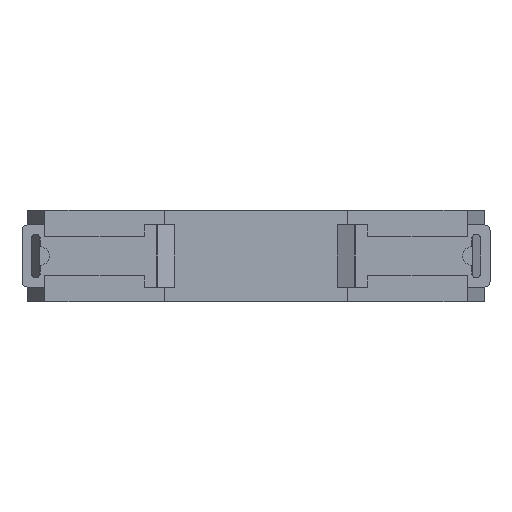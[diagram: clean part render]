
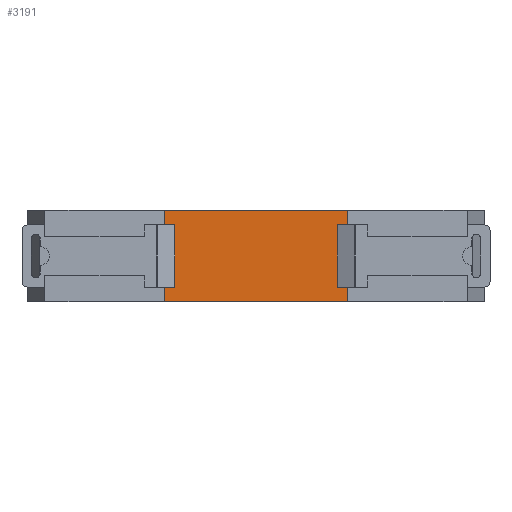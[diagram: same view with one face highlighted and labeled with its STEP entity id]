
A CAD part, left-side view. The second image highlights one B-rep face of the part: STEP entity #3191.
In plain terms, the highlighted planar face has unit normal (-1, 0, 0).
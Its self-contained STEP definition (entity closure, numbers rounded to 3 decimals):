
#868 = DIRECTION ( 'NONE',  ( 1., 0., 0. ) ) ;
#982 = ORIENTED_EDGE ( 'NONE', *, *, #12257, .T. ) ;
#1588 = CARTESIAN_POINT ( 'NONE',  ( -60., -4.25, 18. ) ) ;
#1691 = EDGE_LOOP ( 'NONE', ( #982, #11923, #5760, #4001 ) ) ;
#2030 = PLANE ( 'NONE',  #13670 ) ;
#2377 = LINE ( 'NONE', #11174, #4400 ) ;
#2598 = CARTESIAN_POINT ( 'NONE',  ( -60., -4.25, 18. ) ) ;
#2761 = CARTESIAN_POINT ( 'NONE',  ( -60., -40.25, 0. ) ) ;
#3104 = DIRECTION ( 'NONE',  ( 0., -1., 0. ) ) ;
#3191 = ADVANCED_FACE ( 'NONE', ( #12368 ), #2030, .F. ) ;
#3217 = DIRECTION ( 'NONE',  ( 0., 1., 0. ) ) ;
#4001 = ORIENTED_EDGE ( 'NONE', *, *, #11525, .T. ) ;
#4400 = VECTOR ( 'NONE', #13415, 1000. ) ;
#4735 = VERTEX_POINT ( 'NONE', #1588 ) ;
#4978 = DIRECTION ( 'NONE',  ( 0., 0., -1. ) ) ;
#5760 = ORIENTED_EDGE ( 'NONE', *, *, #9513, .F. ) ;
#6597 = CARTESIAN_POINT ( 'NONE',  ( -60., -4.25, 18. ) ) ;
#8226 = VECTOR ( 'NONE', #3104, 1000. ) ;
#8313 = CARTESIAN_POINT ( 'NONE',  ( -60., -4.25, 0. ) ) ;
#9406 = CARTESIAN_POINT ( 'NONE',  ( -60., -40.25, 18. ) ) ;
#9513 = EDGE_CURVE ( 'NONE', #4735, #9662, #10617, .T. ) ;
#9572 = VECTOR ( 'NONE', #9949, 1000. ) ;
#9662 = VERTEX_POINT ( 'NONE', #9406 ) ;
#9949 = DIRECTION ( 'NONE',  ( 0., -1., 0. ) ) ;
#9981 = VECTOR ( 'NONE', #4978, 1000. ) ;
#10233 = CARTESIAN_POINT ( 'NONE',  ( -60., -4.25, 18. ) ) ;
#10617 = LINE ( 'NONE', #6597, #8226 ) ;
#11174 = CARTESIAN_POINT ( 'NONE',  ( -60., -40.25, 18. ) ) ;
#11312 = VERTEX_POINT ( 'NONE', #2761 ) ;
#11525 = EDGE_CURVE ( 'NONE', #4735, #14745, #13798, .T. ) ;
#11923 = ORIENTED_EDGE ( 'NONE', *, *, #13297, .F. ) ;
#12257 = EDGE_CURVE ( 'NONE', #14745, #11312, #14655, .T. ) ;
#12368 = FACE_OUTER_BOUND ( 'NONE', #1691, .T. ) ;
#13297 = EDGE_CURVE ( 'NONE', #9662, #11312, #2377, .T. ) ;
#13415 = DIRECTION ( 'NONE',  ( 0., 0., -1. ) ) ;
#13670 = AXIS2_PLACEMENT_3D ( 'NONE', #10233, #868, #3217 ) ;
#13798 = LINE ( 'NONE', #2598, #9981 ) ;
#14575 = CARTESIAN_POINT ( 'NONE',  ( -60., -4.25, 0. ) ) ;
#14655 = LINE ( 'NONE', #14575, #9572 ) ;
#14745 = VERTEX_POINT ( 'NONE', #8313 ) ;
